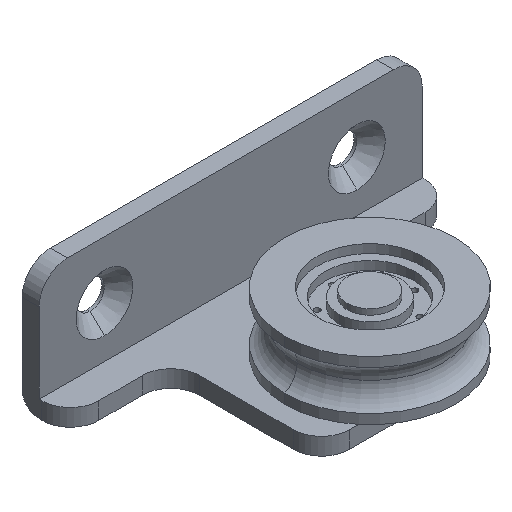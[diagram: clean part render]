
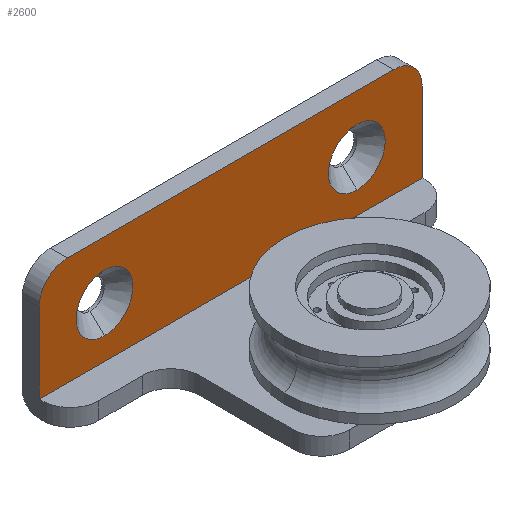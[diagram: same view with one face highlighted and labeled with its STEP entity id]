
A CAD part, isometric view. The second image highlights one B-rep face of the part: STEP entity #2600.
In plain terms, the highlighted planar face has unit normal (0, -1, 0).
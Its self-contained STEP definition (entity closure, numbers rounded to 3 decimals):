
#181 = VECTOR ( 'NONE', #1654, 1000. ) ;
#216 = LINE ( 'NONE', #1230, #181 ) ;
#239 = DIRECTION ( 'NONE',  ( 0., 1., 0. ) ) ;
#249 = EDGE_CURVE ( 'NONE', #537, #1856, #498, .T. ) ;
#286 = ORIENTED_EDGE ( 'NONE', *, *, #739, .T. ) ;
#287 = DIRECTION ( 'NONE',  ( 0., -1., 0. ) ) ;
#290 = DIRECTION ( 'NONE',  ( 0., 0., -1. ) ) ;
#301 = CARTESIAN_POINT ( 'NONE',  ( -22.2, 32., 11.9 ) ) ;
#329 = DIRECTION ( 'NONE',  ( 0., 0., 1. ) ) ;
#346 = VERTEX_POINT ( 'NONE', #726 ) ;
#364 = ORIENTED_EDGE ( 'NONE', *, *, #1545, .F. ) ;
#376 = AXIS2_PLACEMENT_3D ( 'NONE', #1436, #239, #1474 ) ;
#386 = CIRCLE ( 'NONE', #1064, 5. ) ;
#441 = FACE_BOUND ( 'NONE', #1234, .T. ) ;
#448 = EDGE_CURVE ( 'NONE', #997, #1883, #216, .T. ) ;
#470 = DIRECTION ( 'NONE',  ( -1., 0., 0. ) ) ;
#486 = CARTESIAN_POINT ( 'NONE',  ( 33.7, 32., 3. ) ) ;
#489 = CARTESIAN_POINT ( 'NONE',  ( 28.7, 32., 17. ) ) ;
#498 = LINE ( 'NONE', #486, #723 ) ;
#504 = VERTEX_POINT ( 'NONE', #1018 ) ;
#508 = ORIENTED_EDGE ( 'NONE', *, *, #662, .T. ) ;
#518 = DIRECTION ( 'NONE',  ( 0., -1., 0. ) ) ;
#537 = VERTEX_POINT ( 'NONE', #1044 ) ;
#574 = CARTESIAN_POINT ( 'NONE',  ( 22.2, 32., 6.9 ) ) ;
#662 = EDGE_CURVE ( 'NONE', #346, #1096, #893, .T. ) ;
#679 = CARTESIAN_POINT ( 'NONE',  ( 28.7, 32., 22. ) ) ;
#694 = EDGE_CURVE ( 'NONE', #1185, #997, #386, .T. ) ;
#723 = VECTOR ( 'NONE', #290, 1000. ) ;
#726 = CARTESIAN_POINT ( 'NONE',  ( -22.2, 32., 16.9 ) ) ;
#739 = EDGE_CURVE ( 'NONE', #2205, #504, #1458, .T. ) ;
#813 = FACE_BOUND ( 'NONE', #2247, .T. ) ;
#815 = ORIENTED_EDGE ( 'NONE', *, *, #448, .T. ) ;
#819 = LINE ( 'NONE', #1449, #1812 ) ;
#833 = DIRECTION ( 'NONE',  ( 0., 1., 0. ) ) ;
#840 = DIRECTION ( 'NONE',  ( 0., 0., 1. ) ) ;
#878 = DIRECTION ( 'NONE',  ( 0., 0., 1. ) ) ;
#893 = CIRCLE ( 'NONE', #1757, 5. ) ;
#988 = EDGE_LOOP ( 'NONE', ( #1422, #2214, #1176, #1563, #815, #364 ) ) ;
#997 = VERTEX_POINT ( 'NONE', #1609 ) ;
#1018 = CARTESIAN_POINT ( 'NONE',  ( 22.2, 32., 16.9 ) ) ;
#1044 = CARTESIAN_POINT ( 'NONE',  ( 33.7, 32., 17. ) ) ;
#1064 = AXIS2_PLACEMENT_3D ( 'NONE', #2547, #287, #840 ) ;
#1096 = VERTEX_POINT ( 'NONE', #1895 ) ;
#1098 = DIRECTION ( 'NONE',  ( 0., 0., 1. ) ) ;
#1176 = ORIENTED_EDGE ( 'NONE', *, *, #1454, .T. ) ;
#1178 = CARTESIAN_POINT ( 'NONE',  ( 33.7, 32., 3. ) ) ;
#1185 = VERTEX_POINT ( 'NONE', #1576 ) ;
#1210 = CARTESIAN_POINT ( 'NONE',  ( -22.2, 32., 11.9 ) ) ;
#1230 = CARTESIAN_POINT ( 'NONE',  ( -33.7, 32., 3. ) ) ;
#1234 = EDGE_LOOP ( 'NONE', ( #2416, #508 ) ) ;
#1265 = EDGE_CURVE ( 'NONE', #1096, #346, #1674, .T. ) ;
#1367 = CARTESIAN_POINT ( 'NONE',  ( 22.2, 32., 11.9 ) ) ;
#1422 = ORIENTED_EDGE ( 'NONE', *, *, #249, .F. ) ;
#1436 = CARTESIAN_POINT ( 'NONE',  ( 33.7, 32., 3. ) ) ;
#1449 = CARTESIAN_POINT ( 'NONE',  ( 33.7, 32., 3. ) ) ;
#1454 = EDGE_CURVE ( 'NONE', #2380, #1185, #2043, .T. ) ;
#1458 = CIRCLE ( 'NONE', #1932, 5. ) ;
#1474 = DIRECTION ( 'NONE',  ( 0., 0., -1. ) ) ;
#1534 = CARTESIAN_POINT ( 'NONE',  ( 33.7, 32., 22. ) ) ;
#1545 = EDGE_CURVE ( 'NONE', #1856, #1883, #819, .T. ) ;
#1563 = ORIENTED_EDGE ( 'NONE', *, *, #694, .T. ) ;
#1576 = CARTESIAN_POINT ( 'NONE',  ( -28.7, 32., 22. ) ) ;
#1589 = VECTOR ( 'NONE', #1626, 1000. ) ;
#1609 = CARTESIAN_POINT ( 'NONE',  ( -33.7, 32., 17. ) ) ;
#1626 = DIRECTION ( 'NONE',  ( -1., 0., 0. ) ) ;
#1654 = DIRECTION ( 'NONE',  ( 0., 0., -1. ) ) ;
#1671 = DIRECTION ( 'NONE',  ( 0., 0., 1. ) ) ;
#1674 = CIRCLE ( 'NONE', #2370, 5. ) ;
#1705 = CIRCLE ( 'NONE', #2570, 5. ) ;
#1720 = DIRECTION ( 'NONE',  ( 0., 1., 0. ) ) ;
#1734 = DIRECTION ( 'NONE',  ( 0., 1., 0. ) ) ;
#1742 = DIRECTION ( 'NONE',  ( 0., 1., 0. ) ) ;
#1757 = AXIS2_PLACEMENT_3D ( 'NONE', #301, #1720, #878 ) ;
#1812 = VECTOR ( 'NONE', #470, 1000. ) ;
#1856 = VERTEX_POINT ( 'NONE', #1178 ) ;
#1883 = VERTEX_POINT ( 'NONE', #2619 ) ;
#1895 = CARTESIAN_POINT ( 'NONE',  ( -22.2, 32., 6.9 ) ) ;
#1932 = AXIS2_PLACEMENT_3D ( 'NONE', #1367, #1734, #329 ) ;
#2043 = LINE ( 'NONE', #1534, #1589 ) ;
#2131 = CARTESIAN_POINT ( 'NONE',  ( 22.2, 32., 11.9 ) ) ;
#2205 = VERTEX_POINT ( 'NONE', #574 ) ;
#2214 = ORIENTED_EDGE ( 'NONE', *, *, #2651, .T. ) ;
#2247 = EDGE_LOOP ( 'NONE', ( #286, #2540 ) ) ;
#2272 = AXIS2_PLACEMENT_3D ( 'NONE', #489, #518, #2522 ) ;
#2370 = AXIS2_PLACEMENT_3D ( 'NONE', #1210, #833, #1671 ) ;
#2378 = EDGE_CURVE ( 'NONE', #504, #2205, #1705, .T. ) ;
#2380 = VERTEX_POINT ( 'NONE', #679 ) ;
#2400 = CIRCLE ( 'NONE', #2272, 5. ) ;
#2416 = ORIENTED_EDGE ( 'NONE', *, *, #1265, .T. ) ;
#2458 = PLANE ( 'NONE',  #376 ) ;
#2496 = FACE_OUTER_BOUND ( 'NONE', #988, .T. ) ;
#2522 = DIRECTION ( 'NONE',  ( 0., 0., 1. ) ) ;
#2540 = ORIENTED_EDGE ( 'NONE', *, *, #2378, .T. ) ;
#2547 = CARTESIAN_POINT ( 'NONE',  ( -28.7, 32., 17. ) ) ;
#2570 = AXIS2_PLACEMENT_3D ( 'NONE', #2131, #1742, #1098 ) ;
#2600 = ADVANCED_FACE ( 'NONE', ( #441, #813, #2496 ), #2458, .F. ) ;
#2619 = CARTESIAN_POINT ( 'NONE',  ( -33.7, 32., 3. ) ) ;
#2651 = EDGE_CURVE ( 'NONE', #537, #2380, #2400, .T. ) ;
